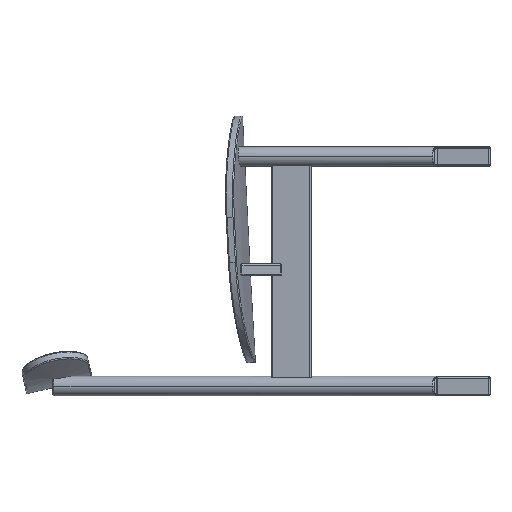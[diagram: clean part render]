
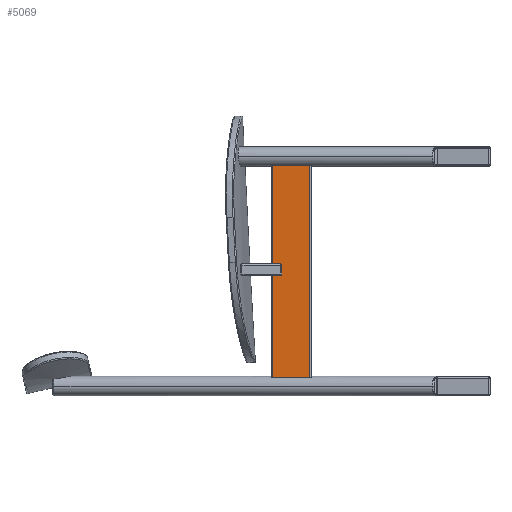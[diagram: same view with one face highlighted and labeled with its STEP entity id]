
A CAD part, left-side view. The second image highlights one B-rep face of the part: STEP entity #5069.
In plain terms, the highlighted planar face has unit normal (-0.996, 0.087, 0).
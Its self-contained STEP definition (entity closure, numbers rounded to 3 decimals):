
#171 = LINE ( 'NONE', #3629, #13632 ) ;
#430 = VERTEX_POINT ( 'NONE', #4345 ) ;
#548 = DIRECTION ( 'NONE',  ( 0., 0., -1. ) ) ;
#739 = DIRECTION ( 'NONE',  ( 0.087, 0.996, 0. ) ) ;
#1023 = DIRECTION ( 'NONE',  ( -0.996, 0.087, 0. ) ) ;
#1735 = VECTOR ( 'NONE', #548, 1000. ) ;
#2316 = VECTOR ( 'NONE', #2424, 1000. ) ;
#2340 = EDGE_CURVE ( 'NONE', #13100, #7501, #5694, .T. ) ;
#2424 = DIRECTION ( 'NONE',  ( 0., 0., -1. ) ) ;
#2552 = DIRECTION ( 'NONE',  ( 0., 0., 1. ) ) ;
#2952 = LINE ( 'NONE', #5158, #9536 ) ;
#3031 = EDGE_CURVE ( 'NONE', #430, #6170, #171, .T. ) ;
#3151 = CARTESIAN_POINT ( 'NONE',  ( -146.953, 449.518, 406.436 ) ) ;
#3278 = ORIENTED_EDGE ( 'NONE', *, *, #4651, .T. ) ;
#3425 = ORIENTED_EDGE ( 'NONE', *, *, #11090, .T. ) ;
#3629 = CARTESIAN_POINT ( 'NONE',  ( -152.363, 387.674, 230.55 ) ) ;
#3762 = ORIENTED_EDGE ( 'NONE', *, *, #13887, .F. ) ;
#4053 = CARTESIAN_POINT ( 'NONE',  ( -152.363, 387.674, 210.45 ) ) ;
#4174 = VERTEX_POINT ( 'NONE', #14504 ) ;
#4268 = ORIENTED_EDGE ( 'NONE', *, *, #14284, .T. ) ;
#4345 = CARTESIAN_POINT ( 'NONE',  ( -152.641, 384.5, 230.55 ) ) ;
#4463 = CARTESIAN_POINT ( 'NONE',  ( -152.363, 387.674, -5.001 ) ) ;
#4585 = DIRECTION ( 'NONE',  ( 0.087, 0.996, 0. ) ) ;
#4651 = EDGE_CURVE ( 'NONE', #13100, #10161, #13804, .T. ) ;
#4782 = ORIENTED_EDGE ( 'NONE', *, *, #7656, .F. ) ;
#5069 = ADVANCED_FACE ( 'NONE', ( #14511 ), #6604, .T. ) ;
#5158 = CARTESIAN_POINT ( 'NONE',  ( -152.641, 384.5, 230.55 ) ) ;
#5650 = EDGE_LOOP ( 'NONE', ( #6893, #9199, #3425, #13386, #4268, #4782, #8797, #3278, #6585, #3762 ) ) ;
#5694 = LINE ( 'NONE', #6941, #8525 ) ;
#5804 = CARTESIAN_POINT ( 'NONE',  ( -152.641, 384.5, 230.55 ) ) ;
#5843 = CARTESIAN_POINT ( 'NONE',  ( -152.641, 384.5, 230.5 ) ) ;
#6170 = VERTEX_POINT ( 'NONE', #11791 ) ;
#6261 = LINE ( 'NONE', #4053, #13497 ) ;
#6460 = CARTESIAN_POINT ( 'NONE',  ( -152.363, 387.674, -5.001 ) ) ;
#6585 = ORIENTED_EDGE ( 'NONE', *, *, #8879, .F. ) ;
#6604 = PLANE ( 'NONE',  #12209 ) ;
#6607 = LINE ( 'NONE', #5804, #2316 ) ;
#6893 = ORIENTED_EDGE ( 'NONE', *, *, #3031, .F. ) ;
#6941 = CARTESIAN_POINT ( 'NONE',  ( -134.315, 593.967, 28.064 ) ) ;
#7105 = EDGE_CURVE ( 'NONE', #430, #12815, #2952, .T. ) ;
#7172 = CARTESIAN_POINT ( 'NONE',  ( -152.363, 387.674, -5.001 ) ) ;
#7501 = VERTEX_POINT ( 'NONE', #8886 ) ;
#7656 = EDGE_CURVE ( 'NONE', #7501, #14368, #10878, .T. ) ;
#8269 = LINE ( 'NONE', #7172, #14421 ) ;
#8351 = LINE ( 'NONE', #11748, #1735 ) ;
#8525 = VECTOR ( 'NONE', #4585, 1000. ) ;
#8797 = ORIENTED_EDGE ( 'NONE', *, *, #2340, .F. ) ;
#8879 = EDGE_CURVE ( 'NONE', #10091, #10161, #10960, .T. ) ;
#8886 = CARTESIAN_POINT ( 'NONE',  ( -152.363, 387.674, 28.064 ) ) ;
#8890 = DIRECTION ( 'NONE',  ( -0.087, -0.996, 0. ) ) ;
#9199 = ORIENTED_EDGE ( 'NONE', *, *, #7105, .T. ) ;
#9536 = VECTOR ( 'NONE', #9580, 1000. ) ;
#9580 = DIRECTION ( 'NONE',  ( 0., 0., -1. ) ) ;
#9720 = VECTOR ( 'NONE', #8890, 1000. ) ;
#10091 = VERTEX_POINT ( 'NONE', #14431 ) ;
#10161 = VERTEX_POINT ( 'NONE', #13832 ) ;
#10560 = DIRECTION ( 'NONE',  ( 0., 0., 1. ) ) ;
#10637 = VECTOR ( 'NONE', #2552, 1000. ) ;
#10878 = LINE ( 'NONE', #4463, #10637 ) ;
#10960 = LINE ( 'NONE', #3151, #9720 ) ;
#11090 = EDGE_CURVE ( 'NONE', #12815, #13925, #8351, .T. ) ;
#11444 = DIRECTION ( 'NONE',  ( 0., 0., 1. ) ) ;
#11664 = DIRECTION ( 'NONE',  ( 0.087, 0.996, 0. ) ) ;
#11748 = CARTESIAN_POINT ( 'NONE',  ( -152.641, 384.5, 230.5 ) ) ;
#11791 = CARTESIAN_POINT ( 'NONE',  ( -152.363, 387.674, 230.55 ) ) ;
#11849 = CARTESIAN_POINT ( 'NONE',  ( -158.183, 321.161, 28.064 ) ) ;
#11890 = CARTESIAN_POINT ( 'NONE',  ( -152.641, 384.5, 210.5 ) ) ;
#12010 = DIRECTION ( 'NONE',  ( -0.087, -0.996, 0. ) ) ;
#12103 = EDGE_CURVE ( 'NONE', #13925, #4174, #6607, .T. ) ;
#12209 = AXIS2_PLACEMENT_3D ( 'NONE', #6460, #1023, #12010 ) ;
#12815 = VERTEX_POINT ( 'NONE', #5843 ) ;
#13100 = VERTEX_POINT ( 'NONE', #11849 ) ;
#13386 = ORIENTED_EDGE ( 'NONE', *, *, #12103, .T. ) ;
#13407 = VECTOR ( 'NONE', #11444, 1000. ) ;
#13497 = VECTOR ( 'NONE', #739, 1000. ) ;
#13632 = VECTOR ( 'NONE', #11664, 1000. ) ;
#13661 = CARTESIAN_POINT ( 'NONE',  ( -158.183, 321.161, -5.001 ) ) ;
#13804 = LINE ( 'NONE', #13661, #13407 ) ;
#13832 = CARTESIAN_POINT ( 'NONE',  ( -158.183, 321.161, 406.436 ) ) ;
#13887 = EDGE_CURVE ( 'NONE', #6170, #10091, #8269, .T. ) ;
#13925 = VERTEX_POINT ( 'NONE', #11890 ) ;
#14284 = EDGE_CURVE ( 'NONE', #4174, #14368, #6261, .T. ) ;
#14368 = VERTEX_POINT ( 'NONE', #14520 ) ;
#14421 = VECTOR ( 'NONE', #10560, 1000. ) ;
#14431 = CARTESIAN_POINT ( 'NONE',  ( -152.363, 387.674, 406.436 ) ) ;
#14504 = CARTESIAN_POINT ( 'NONE',  ( -152.641, 384.5, 210.45 ) ) ;
#14511 = FACE_OUTER_BOUND ( 'NONE', #5650, .T. ) ;
#14520 = CARTESIAN_POINT ( 'NONE',  ( -152.363, 387.674, 210.45 ) ) ;
